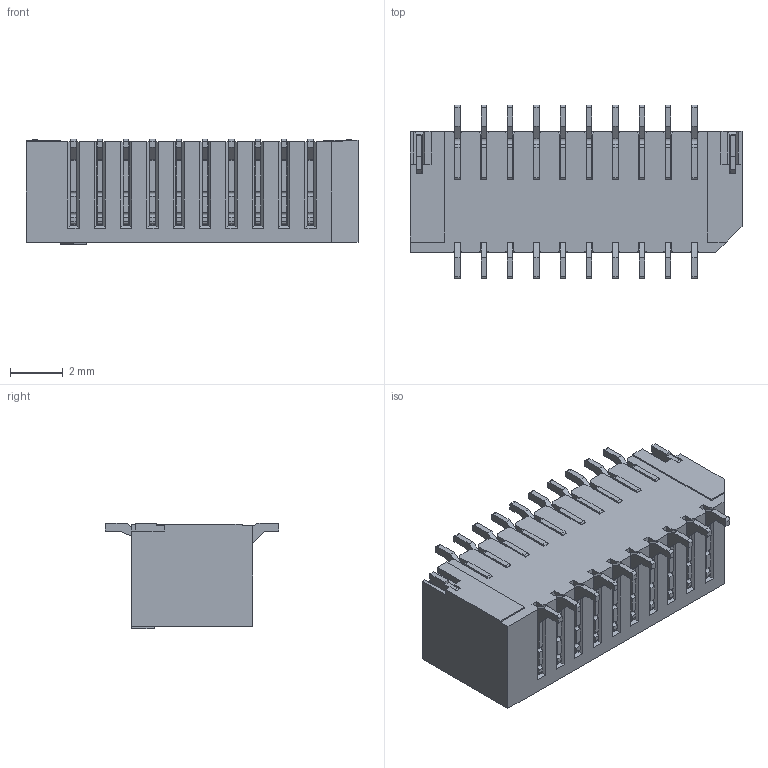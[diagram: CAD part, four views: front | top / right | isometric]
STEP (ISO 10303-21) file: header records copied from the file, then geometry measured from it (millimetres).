
FILE_DESCRIPTION((''),'2;1');
FILE_NAME('20','2009-09-25T',('snow'),(''),'PRO/ENGINEER BY PARAMETRIC TECHNOLOGY CORPORATION, 2007450','PRO/ENGINEER BY PARAMETRIC TECHNOLOGY CORPORATION, 2007450','');
FILE_SCHEMA(('CONFIG_CONTROL_DESIGN'));
Length unit declared in the file: millimetre
Products named in the file (1): 20
Bounding box: 12.6 x 6.6 x 4.01 mm (x, y, z)
Volume: 131.5 mm3; surface area: 631.9 mm2
Topology: 1 solids, 1 shells, 1392 faces, 4377 edges, 2858 vertices
Faces by surface type: plane 1054, cylinder 338
Entity records: 48309 total; most frequent: ORIENTED_EDGE 8754, CARTESIAN_POINT 8639, DIRECTION 7853, EDGE_CURVE 4377, VECTOR 3681, LINE 3681, VERTEX_POINT 2858, AXIS2_PLACEMENT_3D 2086
